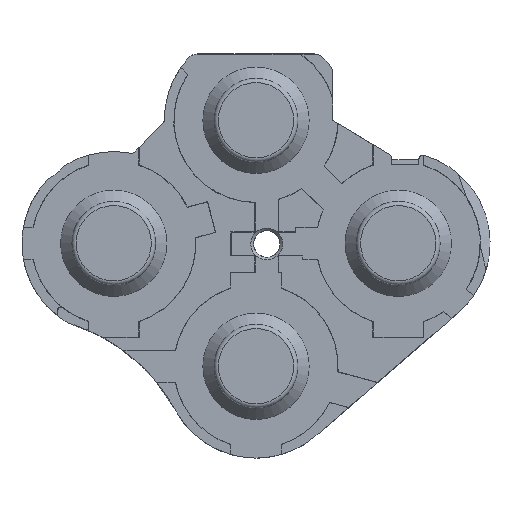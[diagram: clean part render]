
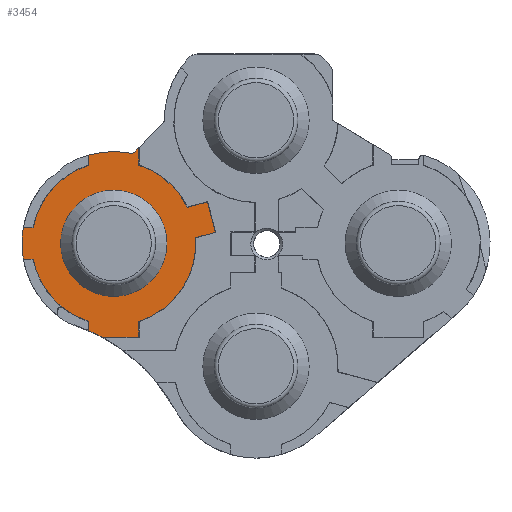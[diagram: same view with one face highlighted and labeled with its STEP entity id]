
A CAD part, top view. The second image highlights one B-rep face of the part: STEP entity #3454.
In plain terms, the highlighted planar face has unit normal (0, 0, 1).
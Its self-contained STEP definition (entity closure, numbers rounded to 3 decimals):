
#132=FACE_BOUND('',#544,.T.);
#183=CIRCLE('',#3730,7.675);
#189=CIRCLE('',#3742,6.862);
#191=CIRCLE('',#3747,15.25);
#192=CIRCLE('',#3748,6.862);
#193=CIRCLE('',#3749,6.862);
#194=CIRCLE('',#3750,0.3);
#195=CIRCLE('',#3751,7.675);
#196=CIRCLE('',#3752,6.862);
#197=CIRCLE('',#3753,4.443);
#345=FACE_OUTER_BOUND('',#543,.T.);
#543=EDGE_LOOP('',(#2470,#2471,#2472,#2473,#2474,#2475,#2476,#2477,#2478,
#2479,#2480,#2481,#2482,#2483,#2484,#2485,#2486,#2487,#2488));
#544=EDGE_LOOP('',(#2489));
#794=LINE('',#5791,#1058);
#795=LINE('',#5794,#1059);
#796=LINE('',#5798,#1060);
#797=LINE('',#5800,#1061);
#798=LINE('',#5804,#1062);
#799=LINE('',#5806,#1063);
#800=LINE('',#5808,#1064);
#801=LINE('',#5812,#1065);
#802=LINE('',#5814,#1066);
#803=LINE('',#5820,#1067);
#804=LINE('',#5823,#1068);
#1058=VECTOR('',#4375,10.);
#1059=VECTOR('',#4378,10.);
#1060=VECTOR('',#4381,10.);
#1061=VECTOR('',#4382,10.);
#1062=VECTOR('',#4385,10.);
#1063=VECTOR('',#4386,10.);
#1064=VECTOR('',#4387,10.);
#1065=VECTOR('',#4390,10.);
#1066=VECTOR('',#4391,10.);
#1067=VECTOR('',#4396,10.);
#1068=VECTOR('',#4399,10.);
#1423=VERTEX_POINT('',#5614);
#1424=VERTEX_POINT('',#5616);
#1437=VERTEX_POINT('',#5777);
#1438=VERTEX_POINT('',#5781);
#1440=VERTEX_POINT('',#5793);
#1441=VERTEX_POINT('',#5795);
#1442=VERTEX_POINT('',#5797);
#1443=VERTEX_POINT('',#5799);
#1444=VERTEX_POINT('',#5801);
#1445=VERTEX_POINT('',#5803);
#1446=VERTEX_POINT('',#5805);
#1447=VERTEX_POINT('',#5807);
#1448=VERTEX_POINT('',#5809);
#1449=VERTEX_POINT('',#5811);
#1450=VERTEX_POINT('',#5813);
#1451=VERTEX_POINT('',#5815);
#1452=VERTEX_POINT('',#5817);
#1453=VERTEX_POINT('',#5819);
#1454=VERTEX_POINT('',#5821);
#1455=VERTEX_POINT('',#5824);
#1815=EDGE_CURVE('',#1424,#1423,#183,.T.);
#1833=EDGE_CURVE('',#1438,#1437,#189,.T.);
#1837=EDGE_CURVE('',#1438,#1423,#794,.F.);
#1838=EDGE_CURVE('',#1437,#1440,#795,.T.);
#1839=EDGE_CURVE('',#1440,#1441,#191,.T.);
#1840=EDGE_CURVE('',#1441,#1442,#796,.T.);
#1841=EDGE_CURVE('',#1442,#1443,#797,.T.);
#1842=EDGE_CURVE('',#1443,#1444,#192,.T.);
#1843=EDGE_CURVE('',#1445,#1444,#798,.F.);
#1844=EDGE_CURVE('',#1446,#1445,#799,.F.);
#1845=EDGE_CURVE('',#1447,#1446,#800,.F.);
#1846=EDGE_CURVE('',#1447,#1448,#193,.T.);
#1847=EDGE_CURVE('',#1448,#1449,#801,.T.);
#1848=EDGE_CURVE('',#1449,#1450,#802,.T.);
#1849=EDGE_CURVE('',#1451,#1450,#194,.T.);
#1850=EDGE_CURVE('',#1451,#1452,#195,.T.);
#1851=EDGE_CURVE('',#1452,#1453,#803,.T.);
#1852=EDGE_CURVE('',#1453,#1454,#196,.T.);
#1853=EDGE_CURVE('',#1424,#1454,#804,.F.);
#1854=EDGE_CURVE('',#1455,#1455,#197,.T.);
#2470=ORIENTED_EDGE('',*,*,#1838,.T.);
#2471=ORIENTED_EDGE('',*,*,#1839,.T.);
#2472=ORIENTED_EDGE('',*,*,#1840,.T.);
#2473=ORIENTED_EDGE('',*,*,#1841,.T.);
#2474=ORIENTED_EDGE('',*,*,#1842,.T.);
#2475=ORIENTED_EDGE('',*,*,#1843,.F.);
#2476=ORIENTED_EDGE('',*,*,#1844,.F.);
#2477=ORIENTED_EDGE('',*,*,#1845,.F.);
#2478=ORIENTED_EDGE('',*,*,#1846,.T.);
#2479=ORIENTED_EDGE('',*,*,#1847,.T.);
#2480=ORIENTED_EDGE('',*,*,#1848,.T.);
#2481=ORIENTED_EDGE('',*,*,#1849,.F.);
#2482=ORIENTED_EDGE('',*,*,#1850,.T.);
#2483=ORIENTED_EDGE('',*,*,#1851,.T.);
#2484=ORIENTED_EDGE('',*,*,#1852,.T.);
#2485=ORIENTED_EDGE('',*,*,#1853,.F.);
#2486=ORIENTED_EDGE('',*,*,#1815,.T.);
#2487=ORIENTED_EDGE('',*,*,#1837,.F.);
#2488=ORIENTED_EDGE('',*,*,#1833,.T.);
#2489=ORIENTED_EDGE('',*,*,#1854,.F.);
#3316=PLANE('',#3746);
#3454=ADVANCED_FACE('',(#345,#132),#3316,.F.);
#3730=AXIS2_PLACEMENT_3D('',#5617,#4338,#4339);
#3742=AXIS2_PLACEMENT_3D('',#5782,#4366,#4367);
#3746=AXIS2_PLACEMENT_3D('',#5792,#4376,#4377);
#3747=AXIS2_PLACEMENT_3D('',#5796,#4379,#4380);
#3748=AXIS2_PLACEMENT_3D('',#5802,#4383,#4384);
#3749=AXIS2_PLACEMENT_3D('',#5810,#4388,#4389);
#3750=AXIS2_PLACEMENT_3D('',#5816,#4392,#4393);
#3751=AXIS2_PLACEMENT_3D('',#5818,#4394,#4395);
#3752=AXIS2_PLACEMENT_3D('',#5822,#4397,#4398);
#3753=AXIS2_PLACEMENT_3D('',#5825,#4400,#4401);
#4338=DIRECTION('center_axis',(0.,0.,
1.));
#4339=DIRECTION('ref_axis',(1.,0.,0.));
#4366=DIRECTION('center_axis',(0.,0.,
1.));
#4367=DIRECTION('ref_axis',(-1.,0.,0.));
#4375=DIRECTION('',(1.,0.,0.));
#4376=DIRECTION('center_axis',(0.,0.,
-1.));
#4377=DIRECTION('ref_axis',(1.,0.,0.));
#4378=DIRECTION('',(0.,-1.,0.));
#4379=DIRECTION('center_axis',(0.,0.,
-1.));
#4380=DIRECTION('ref_axis',(1.,0.,0.));
#4381=DIRECTION('',(1.,0.,0.));
#4382=DIRECTION('',(0.,1.,0.));
#4383=DIRECTION('center_axis',(0.,0.,
1.));
#4384=DIRECTION('ref_axis',(-1.,0.,0.));
#4385=DIRECTION('',(0.966,0.259,0.));
#4386=DIRECTION('',(-0.259,0.966,0.));
#4387=DIRECTION('',(-0.966,-0.259,0.));
#4388=DIRECTION('center_axis',(0.,0.,
1.));
#4389=DIRECTION('ref_axis',(-1.,0.,0.));
#4390=DIRECTION('',(0.,1.,0.));
#4391=DIRECTION('',(-0.697,-0.717,0.));
#4392=DIRECTION('center_axis',(0.,0.,
1.));
#4393=DIRECTION('ref_axis',(0.3,-0.954,0.));
#4394=DIRECTION('center_axis',(0.,0.,
1.));
#4395=DIRECTION('ref_axis',(1.,0.,0.));
#4396=DIRECTION('',(0.,-1.,0.));
#4397=DIRECTION('center_axis',(0.,0.,
1.));
#4398=DIRECTION('ref_axis',(-1.,0.,0.));
#4399=DIRECTION('',(-1.,0.,0.));
#4400=DIRECTION('center_axis',(0.,0.,
1.));
#4401=DIRECTION('ref_axis',(1.,0.,0.));
#5614=CARTESIAN_POINT('',(21.507,-1.12,8.09));
#5616=CARTESIAN_POINT('',(21.507,1.511,8.09));
#5617=CARTESIAN_POINT('Origin',(29.069,0.195,8.09));
#5777=CARTESIAN_POINT('',(26.957,-6.333,8.09));
#5781=CARTESIAN_POINT('',(22.334,-1.12,8.09));
#5782=CARTESIAN_POINT('Origin',(29.069,0.195,8.09));
#5791=CARTESIAN_POINT('',(28.375,-1.12,8.09));
#5792=CARTESIAN_POINT('Origin',(33.069,-9.081,8.09));
#5793=CARTESIAN_POINT('',(26.957,-7.099,8.09));
#5794=CARTESIAN_POINT('',(26.957,-7.648,8.09));
#5795=CARTESIAN_POINT('',(28.116,-7.666,8.09));
#5796=CARTESIAN_POINT('Origin',(20.844,-21.071,8.09));
#5797=CARTESIAN_POINT('',(31.18,-7.666,8.09));
#5798=CARTESIAN_POINT('',(30.094,-7.666,8.09));
#5799=CARTESIAN_POINT('',(31.18,-6.333,8.09));
#5800=CARTESIAN_POINT('',(31.18,-8.293,8.09));
#5801=CARTESIAN_POINT('',(35.914,0.668,8.09));
#5802=CARTESIAN_POINT('Origin',(29.069,0.195,8.09));
#5803=CARTESIAN_POINT('',(37.586,1.116,8.09));
#5804=CARTESIAN_POINT('',(33.479,0.016,8.09));
#5805=CARTESIAN_POINT('',(36.905,3.657,8.09));
#5806=CARTESIAN_POINT('',(38.414,-1.975,8.09));
#5807=CARTESIAN_POINT('',(35.233,3.209,8.09));
#5808=CARTESIAN_POINT('',(32.037,2.352,8.09));
#5809=CARTESIAN_POINT('',(31.18,6.724,8.09));
#5810=CARTESIAN_POINT('Origin',(29.069,0.195,8.09));
#5811=CARTESIAN_POINT('',(31.18,8.22,8.09));
#5812=CARTESIAN_POINT('',(31.18,-1.238,8.09));
#5813=CARTESIAN_POINT('',(30.789,7.818,8.09));
#5814=CARTESIAN_POINT('',(32.243,9.311,8.09));
#5815=CARTESIAN_POINT('',(30.518,7.732,8.09));
#5816=CARTESIAN_POINT('Origin',(30.574,8.027,8.09));
#5817=CARTESIAN_POINT('',(26.957,7.574,8.09));
#5818=CARTESIAN_POINT('Origin',(29.069,0.195,8.09));
#5819=CARTESIAN_POINT('',(26.957,6.724,8.09));
#5820=CARTESIAN_POINT('',(26.957,-0.593,8.09));
#5821=CARTESIAN_POINT('',(22.334,1.511,8.09));
#5822=CARTESIAN_POINT('Origin',(29.069,0.195,8.09));
#5823=CARTESIAN_POINT('',(27.586,1.511,8.09));
#5824=CARTESIAN_POINT('',(24.626,0.195,8.09));
#5825=CARTESIAN_POINT('Origin',(29.069,0.195,8.09));
